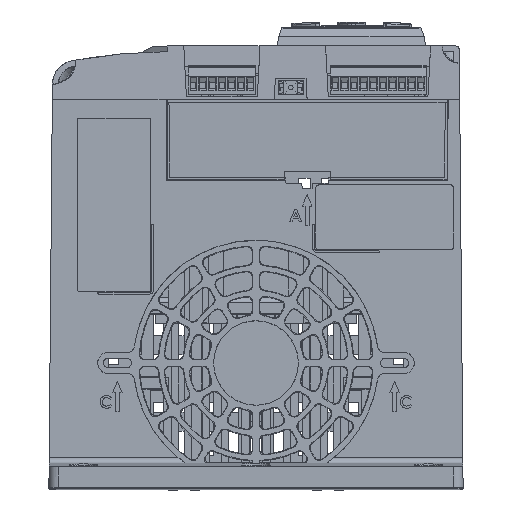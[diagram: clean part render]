
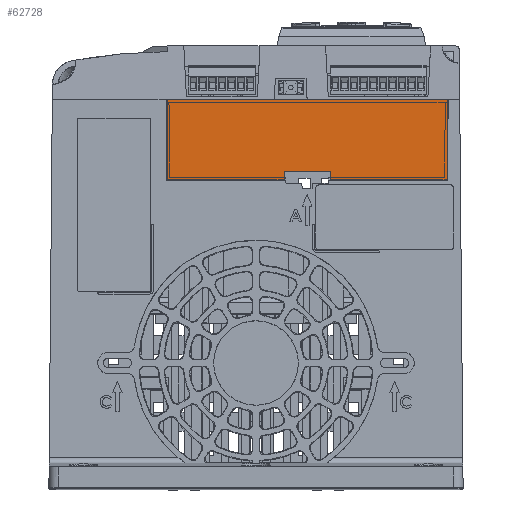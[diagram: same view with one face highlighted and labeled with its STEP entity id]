
A CAD part, top view. The second image highlights one B-rep face of the part: STEP entity #62728.
In plain terms, the highlighted planar face has unit normal (0, 0, 1).
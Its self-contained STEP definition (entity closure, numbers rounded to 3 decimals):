
#4893 = CARTESIAN_POINT ( 'NONE',  ( -74.1, -1.5, 0. ) ) ;
#6292 = EDGE_CURVE ( 'NONE', #152993, #92688, #14336, .T. ) ;
#14336 = LINE ( 'NONE', #116910, #16227 ) ;
#16227 = VECTOR ( 'NONE', #119068, 1000. ) ;
#16345 = CARTESIAN_POINT ( 'NONE',  ( -75.5, 0., 0. ) ) ;
#22358 = VECTOR ( 'NONE', #76403, 1000. ) ;
#23088 = LINE ( 'NONE', #232098, #22358 ) ;
#24941 = DIRECTION ( 'NONE',  ( 0., 1., 0. ) ) ;
#25679 = ORIENTED_EDGE ( 'NONE', *, *, #190115, .T. ) ;
#30328 = LINE ( 'NONE', #216990, #64900 ) ;
#34969 = VECTOR ( 'NONE', #170602, 1000. ) ;
#35222 = LINE ( 'NONE', #164591, #35932 ) ;
#35883 = LINE ( 'NONE', #16345, #34969 ) ;
#35932 = VECTOR ( 'NONE', #183847, 1000. ) ;
#53106 = CARTESIAN_POINT ( 'NONE',  ( -75.5, 40.25, 0. ) ) ;
#53841 = CARTESIAN_POINT ( 'NONE',  ( 70.5, 40.25, 0. ) ) ;
#62728 = ADVANCED_FACE ( 'NONE', ( #191436 ), #88433, .T. ) ;
#64561 = CARTESIAN_POINT ( 'NONE',  ( -74.1, 40.25, 0. ) ) ;
#64900 = VECTOR ( 'NONE', #24941, 1000. ) ;
#65458 = ORIENTED_EDGE ( 'NONE', *, *, #103626, .T. ) ;
#76403 = DIRECTION ( 'NONE',  ( 0., 1., 0. ) ) ;
#80386 = VERTEX_POINT ( 'NONE', #226705 ) ;
#82354 = DIRECTION ( 'NONE',  ( 1., 0., 0. ) ) ;
#83394 = AXIS2_PLACEMENT_3D ( 'NONE', #223915, #108589, #243075 ) ;
#88433 = PLANE ( 'NONE',  #83394 ) ;
#92688 = VERTEX_POINT ( 'NONE', #151085 ) ;
#94391 = CARTESIAN_POINT ( 'NONE',  ( 70.5, -1.5, 0. ) ) ;
#97367 = VECTOR ( 'NONE', #138700, 1000. ) ;
#98093 = LINE ( 'NONE', #234365, #97367 ) ;
#99021 = VECTOR ( 'NONE', #82354, 1000. ) ;
#100145 = LINE ( 'NONE', #4893, #99021 ) ;
#103626 = EDGE_CURVE ( 'NONE', #207180, #169244, #35222, .T. ) ;
#108589 = DIRECTION ( 'NONE',  ( 0., 0., 1. ) ) ;
#116910 = CARTESIAN_POINT ( 'NONE',  ( -74.1, 2.75, 0. ) ) ;
#118370 = ORIENTED_EDGE ( 'NONE', *, *, #233449, .T. ) ;
#119068 = DIRECTION ( 'NONE',  ( 1., 0., 0. ) ) ;
#124643 = VERTEX_POINT ( 'NONE', #53841 ) ;
#135826 = EDGE_CURVE ( 'NONE', #124643, #143616, #152845, .T. ) ;
#137615 = EDGE_CURVE ( 'NONE', #172711, #152993, #23088, .T. ) ;
#138700 = DIRECTION ( 'NONE',  ( 0., -1., 0. ) ) ;
#143616 = VERTEX_POINT ( 'NONE', #53106 ) ;
#147623 = EDGE_CURVE ( 'NONE', #80386, #172711, #100145, .T. ) ;
#147884 = ORIENTED_EDGE ( 'NONE', *, *, #231027, .T. ) ;
#151085 = CARTESIAN_POINT ( 'NONE',  ( 9.5, 2.75, 0. ) ) ;
#152845 = LINE ( 'NONE', #64561, #153169 ) ;
#152993 = VERTEX_POINT ( 'NONE', #181802 ) ;
#153169 = VECTOR ( 'NONE', #179998, 1000. ) ;
#164591 = CARTESIAN_POINT ( 'NONE',  ( -74.1, -1.5, 0. ) ) ;
#169244 = VERTEX_POINT ( 'NONE', #94391 ) ;
#170602 = DIRECTION ( 'NONE',  ( 0., -1., 0. ) ) ;
#172711 = VERTEX_POINT ( 'NONE', #247713 ) ;
#178279 = CARTESIAN_POINT ( 'NONE',  ( 9.5, -1.5, 0. ) ) ;
#179555 = ORIENTED_EDGE ( 'NONE', *, *, #135826, .T. ) ;
#179998 = DIRECTION ( 'NONE',  ( -1., 0., 0. ) ) ;
#181802 = CARTESIAN_POINT ( 'NONE',  ( -14.5, 2.75, 0. ) ) ;
#183847 = DIRECTION ( 'NONE',  ( 1., 0., 0. ) ) ;
#190115 = EDGE_CURVE ( 'NONE', #169244, #124643, #30328, .T. ) ;
#191019 = ORIENTED_EDGE ( 'NONE', *, *, #147623, .T. ) ;
#191436 = FACE_OUTER_BOUND ( 'NONE', #194377, .T. ) ;
#194377 = EDGE_LOOP ( 'NONE', ( #118370, #65458, #25679, #179555, #147884, #191019, #238740, #244731 ) ) ;
#207180 = VERTEX_POINT ( 'NONE', #178279 ) ;
#216990 = CARTESIAN_POINT ( 'NONE',  ( 70.5, 0., 0. ) ) ;
#223915 = CARTESIAN_POINT ( 'NONE',  ( -74.1, 0., 0. ) ) ;
#226705 = CARTESIAN_POINT ( 'NONE',  ( -75.5, -1.5, 0. ) ) ;
#231027 = EDGE_CURVE ( 'NONE', #143616, #80386, #35883, .T. ) ;
#232098 = CARTESIAN_POINT ( 'NONE',  ( -14.5, 0., 0. ) ) ;
#233449 = EDGE_CURVE ( 'NONE', #92688, #207180, #98093, .T. ) ;
#234365 = CARTESIAN_POINT ( 'NONE',  ( 9.5, 0., 0. ) ) ;
#238740 = ORIENTED_EDGE ( 'NONE', *, *, #137615, .T. ) ;
#243075 = DIRECTION ( 'NONE',  ( 1., 0., 0. ) ) ;
#244731 = ORIENTED_EDGE ( 'NONE', *, *, #6292, .T. ) ;
#247713 = CARTESIAN_POINT ( 'NONE',  ( -14.5, -1.5, 0. ) ) ;
